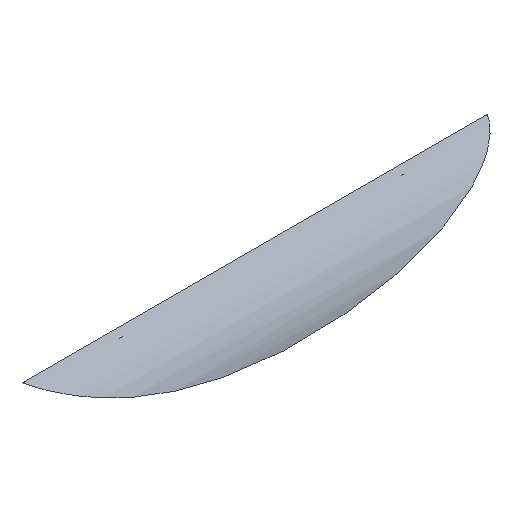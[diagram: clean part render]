
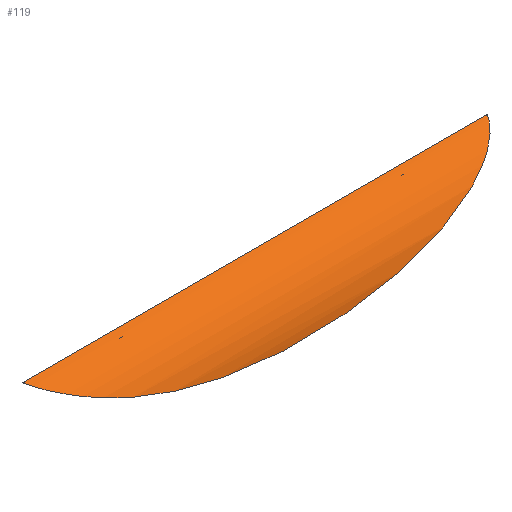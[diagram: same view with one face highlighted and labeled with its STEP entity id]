
A CAD part, isometric view. The second image highlights one B-rep face of the part: STEP entity #119.
In plain terms, the highlighted cylindrical face has radius 23.989 mm (diameter 47.979 mm), a partial arc.
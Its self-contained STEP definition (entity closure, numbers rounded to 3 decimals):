
#95 = VERTEX_POINT( '', #211 );
#113 = VERTEX_POINT( '', #230 );
#119 = ADVANCED_FACE( '', ( #237 ), #238, .T. );
#147 = EDGE_CURVE( '', #113, #95, #269, .T. );
#151 = EDGE_CURVE( '', #113, #95, #273, .T. );
#211 = CARTESIAN_POINT( '', ( 127.5, 0., 3. ) );
#230 = CARTESIAN_POINT( '', ( -31.5, 0., 3. ) );
#237 = FACE_OUTER_BOUND( '', #401, .T. );
#238 = CYLINDRICAL_SURFACE( '', #402, 23.989 );
#269 = B_SPLINE_CURVE_WITH_KNOTS( '', 3, ( #445, #446, #447, #448, #449, #450, #451, #452, #453, #454, #455, #456, #457, #458, #459, #460, #461, #462, #463, #464, #465, #466, #467, #468, #469, #470, #471, #472, #473, #474, #475, #476, #477, #478, #479, #480, #481, #482, #483, #484, #485, #486, #487, #488, #489, #490, #491, #492, #493, #494, #495, #496, #497, #498, #499, #500, #501, #502, #503, #504, #505, #506, #507, #508, #509, #510, #511, #512, #513, #514, #515, #516, #517, #518 ), .UNSPECIFIED., .F., .F., ( 4, 2, 2, 2, 2, 2, 2, 2, 2, 2, 2, 2, 2, 2, 2, 2, 2, 2, 2, 2, 2, 2, 2, 2, 2, 2, 2, 2, 2, 2, 2, 2, 2, 2, 2, 2, 4 ), ( 1.154, 2.263, 4.526, 6.79, 9.053, 13.579, 18.105, 22.632, 27.158, 31.685, 36.211, 42.27, 48.328, 54.387, 60.446, 66.505, 72.564, 78.622, 84.681, 90.74, 96.799, 102.857, 108.916, 114.975, 121.034, 127.092, 133.151, 137.678, 142.204, 146.73, 151.257, 155.783, 160.309, 162.573, 164.836, 167.099, 168.208 ), .UNSPECIFIED. );
#273 = LINE( '', #524, #525 );
#401 = EDGE_LOOP( '', ( #609, #610 ) );
#402 = AXIS2_PLACEMENT_3D( '', #611, #612, #613 );
#445 = CARTESIAN_POINT( '', ( -31.5, 0., 3. ) );
#446 = CARTESIAN_POINT( '', ( -31.333, -0.309, 2.92 ) );
#447 = CARTESIAN_POINT( '', ( -31.158, -0.608, 2.837 ) );
#448 = CARTESIAN_POINT( '', ( -30.601, -1.49, 2.573 ) );
#449 = CARTESIAN_POINT( '', ( -30.195, -2.045, 2.382 ) );
#450 = CARTESIAN_POINT( '', ( -29.33, -3.098, 1.981 ) );
#451 = CARTESIAN_POINT( '', ( -28.871, -3.596, 1.77 ) );
#452 = CARTESIAN_POINT( '', ( -27.908, -4.545, 1.332 ) );
#453 = CARTESIAN_POINT( '', ( -27.404, -4.996, 1.105 ) );
#454 = CARTESIAN_POINT( '', ( -25.829, -6.29, 0.406 ) );
#455 = CARTESIAN_POINT( '', ( -24.699, -7.072, -0.084 ) );
#456 = CARTESIAN_POINT( '', ( -22.307, -8.506, -1.089 ) );
#457 = CARTESIAN_POINT( '', ( -21.045, -9.159, -1.604 ) );
#458 = CARTESIAN_POINT( '', ( -18.413, -10.354, -2.643 ) );
#459 = CARTESIAN_POINT( '', ( -17.049, -10.894, -3.163 ) );
#460 = CARTESIAN_POINT( '', ( -14.255, -11.873, -4.19 ) );
#461 = CARTESIAN_POINT( '', ( -12.825, -12.312, -4.696 ) );
#462 = CARTESIAN_POINT( '', ( -9.937, -13.102, -5.677 ) );
#463 = CARTESIAN_POINT( '', ( -8.478, -13.453, -6.153 ) );
#464 = CARTESIAN_POINT( '', ( -5.566, -14.081, -7.062 ) );
#465 = CARTESIAN_POINT( '', ( -4.113, -14.357, -7.496 ) );
#466 = CARTESIAN_POINT( '', ( -0.766, -14.93, -8.452 ) );
#467 = CARTESIAN_POINT( '', ( 1.21, -15.218, -8.983 ) );
#468 = CARTESIAN_POINT( '', ( 5.253, -15.725, -9.994 ) );
#469 = CARTESIAN_POINT( '', ( 7.322, -15.943, -10.474 ) );
#470 = CARTESIAN_POINT( '', ( 11.526, -16.321, -11.373 ) );
#471 = CARTESIAN_POINT( '', ( 13.662, -16.481, -11.791 ) );
#472 = CARTESIAN_POINT( '', ( 17.974, -16.754, -12.554 ) );
#473 = CARTESIAN_POINT( '', ( 20.151, -16.866, -12.9 ) );
#474 = CARTESIAN_POINT( '', ( 24.519, -17.054, -13.513 ) );
#475 = CARTESIAN_POINT( '', ( 26.71, -17.13, -13.781 ) );
#476 = CARTESIAN_POINT( '', ( 31.078, -17.252, -14.236 ) );
#477 = CARTESIAN_POINT( '', ( 33.256, -17.299, -14.423 ) );
#478 = CARTESIAN_POINT( '', ( 37.571, -17.37, -14.718 ) );
#479 = CARTESIAN_POINT( '', ( 39.707, -17.395, -14.826 ) );
#480 = CARTESIAN_POINT( '', ( 43.912, -17.427, -14.967 ) );
#481 = CARTESIAN_POINT( '', ( 45.98, -17.435, -15. ) );
#482 = CARTESIAN_POINT( '', ( 50.02, -17.435, -15. ) );
#483 = CARTESIAN_POINT( '', ( 52.088, -17.427, -14.967 ) );
#484 = CARTESIAN_POINT( '', ( 56.293, -17.395, -14.826 ) );
#485 = CARTESIAN_POINT( '', ( 58.429, -17.37, -14.718 ) );
#486 = CARTESIAN_POINT( '', ( 62.744, -17.299, -14.423 ) );
#487 = CARTESIAN_POINT( '', ( 64.922, -17.252, -14.236 ) );
#488 = CARTESIAN_POINT( '', ( 69.29, -17.13, -13.781 ) );
#489 = CARTESIAN_POINT( '', ( 71.481, -17.054, -13.513 ) );
#490 = CARTESIAN_POINT( '', ( 75.849, -16.866, -12.9 ) );
#491 = CARTESIAN_POINT( '', ( 78.026, -16.754, -12.554 ) );
#492 = CARTESIAN_POINT( '', ( 82.338, -16.481, -11.791 ) );
#493 = CARTESIAN_POINT( '', ( 84.474, -16.321, -11.373 ) );
#494 = CARTESIAN_POINT( '', ( 88.678, -15.943, -10.474 ) );
#495 = CARTESIAN_POINT( '', ( 90.747, -15.725, -9.994 ) );
#496 = CARTESIAN_POINT( '', ( 94.79, -15.218, -8.983 ) );
#497 = CARTESIAN_POINT( '', ( 96.766, -14.93, -8.452 ) );
#498 = CARTESIAN_POINT( '', ( 100.113, -14.357, -7.496 ) );
#499 = CARTESIAN_POINT( '', ( 101.566, -14.081, -7.062 ) );
#500 = CARTESIAN_POINT( '', ( 104.478, -13.453, -6.153 ) );
#501 = CARTESIAN_POINT( '', ( 105.937, -13.102, -5.677 ) );
#502 = CARTESIAN_POINT( '', ( 108.825, -12.312, -4.696 ) );
#503 = CARTESIAN_POINT( '', ( 110.255, -11.873, -4.19 ) );
#504 = CARTESIAN_POINT( '', ( 113.049, -10.894, -3.163 ) );
#505 = CARTESIAN_POINT( '', ( 114.413, -10.354, -2.643 ) );
#506 = CARTESIAN_POINT( '', ( 117.045, -9.159, -1.604 ) );
#507 = CARTESIAN_POINT( '', ( 118.307, -8.506, -1.089 ) );
#508 = CARTESIAN_POINT( '', ( 120.699, -7.072, -0.084 ) );
#509 = CARTESIAN_POINT( '', ( 121.829, -6.29, 0.406 ) );
#510 = CARTESIAN_POINT( '', ( 123.404, -4.996, 1.105 ) );
#511 = CARTESIAN_POINT( '', ( 123.908, -4.545, 1.332 ) );
#512 = CARTESIAN_POINT( '', ( 124.871, -3.596, 1.77 ) );
#513 = CARTESIAN_POINT( '', ( 125.33, -3.098, 1.981 ) );
#514 = CARTESIAN_POINT( '', ( 126.195, -2.045, 2.382 ) );
#515 = CARTESIAN_POINT( '', ( 126.601, -1.49, 2.573 ) );
#516 = CARTESIAN_POINT( '', ( 127.158, -0.608, 2.837 ) );
#517 = CARTESIAN_POINT( '', ( 127.333, -0.309, 2.92 ) );
#518 = CARTESIAN_POINT( '', ( 127.5, 0., 3. ) );
#524 = CARTESIAN_POINT( '', ( -31.5, 0., 3. ) );
#525 = VECTOR( '', #654, 1. );
#609 = ORIENTED_EDGE( '', *, *, #147, .T. );
#610 = ORIENTED_EDGE( '', *, *, #151, .F. );
#611 = CARTESIAN_POINT( '', ( -31.5, 5.977, -20.233 ) );
#612 = DIRECTION( '', ( -1., 0., 0. ) );
#613 = DIRECTION( '', ( 0., -0.249, 0.968 ) );
#654 = DIRECTION( '', ( 1., 0., 0. ) );
